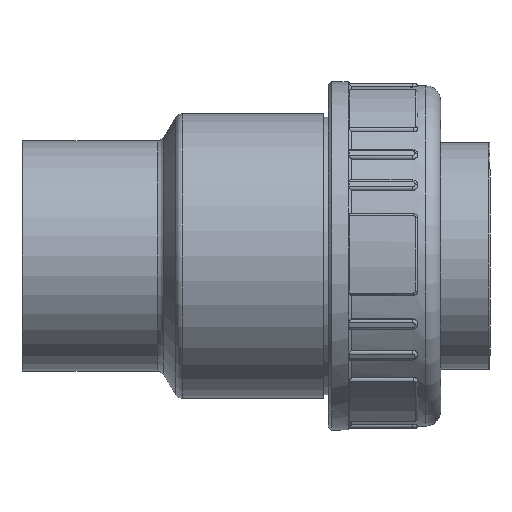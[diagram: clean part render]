
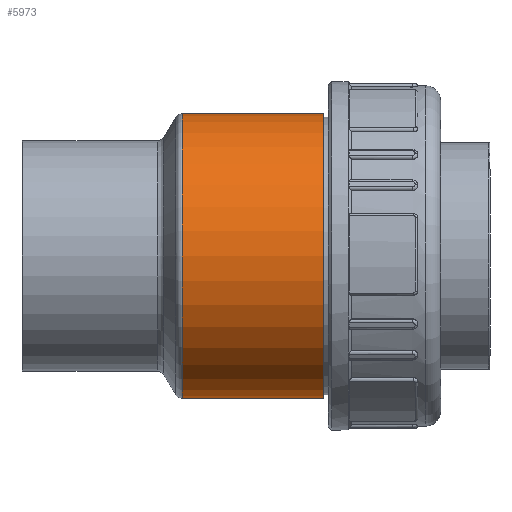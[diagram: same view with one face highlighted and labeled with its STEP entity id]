
A CAD part, left-side view. The second image highlights one B-rep face of the part: STEP entity #5973.
In plain terms, the highlighted cylindrical face has radius 47 mm (diameter 94 mm), a full revolution.
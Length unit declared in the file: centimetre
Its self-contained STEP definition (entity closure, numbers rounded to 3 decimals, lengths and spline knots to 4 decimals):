
#219=CYLINDRICAL_SURFACE('',#6402,4.7);
#306=FACE_BOUND('',#1081,.T.);
#307=FACE_BOUND('',#1082,.T.);
#397=CIRCLE('',#6398,4.7);
#400=CIRCLE('',#6403,4.7);
#721=FACE_OUTER_BOUND('',#1080,.T.);
#1080=EDGE_LOOP('',(#4102));
#1081=EDGE_LOOP('',(#4103));
#1082=EDGE_LOOP('',(#4104));
#2063=B_SPLINE_CURVE_WITH_KNOTS('',3,(#9790,#9791,#9792,#9793,#9794,#9795,
#9796,#9797,#9798,#9799,#9800,#9801,#9802,#9803,#9804,#9805,#9806,#9807),
 .UNSPECIFIED.,.T.,.F.,(4,1,1,1,1,1,1,1,1,1,1,1,1,1,1,4),(-11.3775,
-10.5648,-9.7522,-8.9395,-8.1268,
-7.3141,-6.5014,-5.9596,-5.4179,
-4.8761,-3.7925,-3.2507,-2.438,
-1.6254,-0.8127,0.),.UNSPECIFIED.);
#2393=VERTEX_POINT('',#9779);
#2396=VERTEX_POINT('',#9787);
#2397=VERTEX_POINT('',#9789);
#3029=EDGE_CURVE('',#2393,#2393,#397,.T.);
#3032=EDGE_CURVE('',#2396,#2396,#400,.T.);
#3033=EDGE_CURVE('',#2397,#2397,#2063,.T.);
#4102=ORIENTED_EDGE('',*,*,#3032,.T.);
#4103=ORIENTED_EDGE('',*,*,#3033,.F.);
#4104=ORIENTED_EDGE('',*,*,#3029,.F.);
#5973=ADVANCED_FACE('',(#721,#306,#307),#219,.T.);
#6398=AXIS2_PLACEMENT_3D('',#9780,#7207,#7208);
#6402=AXIS2_PLACEMENT_3D('',#9786,#7215,#7216);
#6403=AXIS2_PLACEMENT_3D('',#9788,#7217,#7218);
#7207=DIRECTION('center_axis',(0.,1.,0.));
#7208=DIRECTION('ref_axis',(1.,0.,0.));
#7215=DIRECTION('center_axis',(0.,1.,0.));
#7216=DIRECTION('ref_axis',(-1.,0.,0.));
#7217=DIRECTION('center_axis',(0.,1.,0.));
#7218=DIRECTION('ref_axis',(-1.,0.,0.));
#9779=CARTESIAN_POINT('',(-4.7,2.5548,0.));
#9780=CARTESIAN_POINT('Origin',(0.,2.5548,
0.));
#9786=CARTESIAN_POINT('Origin',(0.,-0.805,0.));
#9787=CARTESIAN_POINT('',(4.7,-2.105,0.));
#9788=CARTESIAN_POINT('Origin',(0.,-2.105,0.));
#9789=CARTESIAN_POINT('',(4.3063,0.,1.883));
#9790=CARTESIAN_POINT('Ctrl Pts',(4.3061,0.,
1.8832));
#9791=CARTESIAN_POINT('Ctrl Pts',(4.3061,-0.2861,1.8832));
#9792=CARTESIAN_POINT('Ctrl Pts',(4.3676,-0.8582,1.75));
#9793=CARTESIAN_POINT('Ctrl Pts',(4.5575,-1.5274,1.2167));
#9794=CARTESIAN_POINT('Ctrl Pts',(4.7057,-1.9106,0.4406));
#9795=CARTESIAN_POINT('Ctrl Pts',(4.706,-1.9105,-0.4407));
#9796=CARTESIAN_POINT('Ctrl Pts',(4.5572,-1.5278,-1.2166));
#9797=CARTESIAN_POINT('Ctrl Pts',(4.3891,-0.9318,-1.6905));
#9798=CARTESIAN_POINT('Ctrl Pts',(4.3034,-0.2905,-1.8901));
#9799=CARTESIAN_POINT('Ctrl Pts',(4.3032,0.2904,-1.89));
#9800=CARTESIAN_POINT('Ctrl Pts',(4.4019,1.0236,-1.6626));
#9801=CARTESIAN_POINT('Ctrl Pts',(4.5825,1.5917,-1.1375));
#9802=CARTESIAN_POINT('Ctrl Pts',(4.7056,1.9104,-0.3422));
#9803=CARTESIAN_POINT('Ctrl Pts',(4.7058,1.9107,0.4404));
#9804=CARTESIAN_POINT('Ctrl Pts',(4.5574,1.5274,1.2169));
#9805=CARTESIAN_POINT('Ctrl Pts',(4.3676,0.8582,1.75));
#9806=CARTESIAN_POINT('Ctrl Pts',(4.3061,0.2861,1.8832));
#9807=CARTESIAN_POINT('Ctrl Pts',(4.3061,0.,
1.8832));
